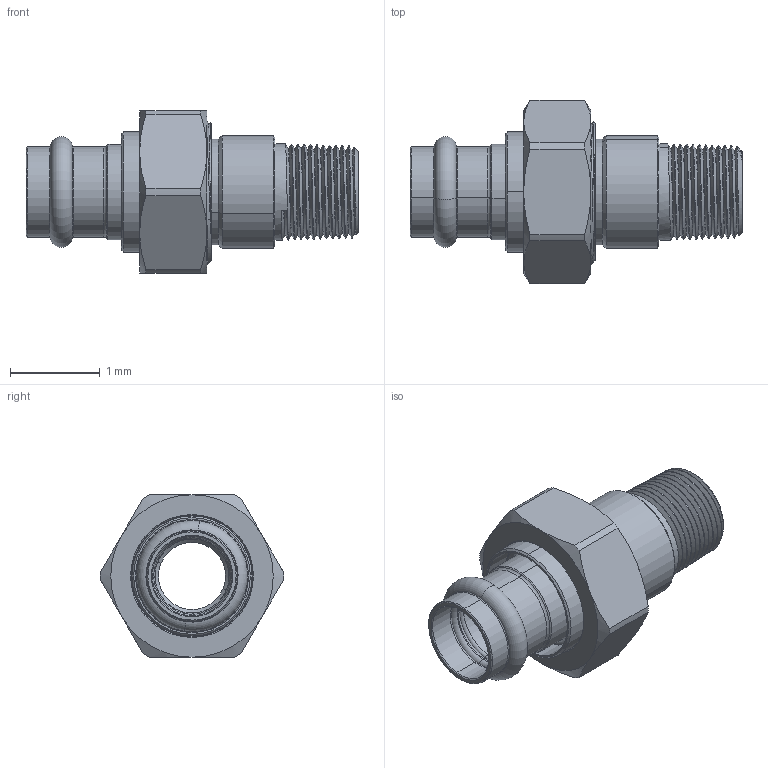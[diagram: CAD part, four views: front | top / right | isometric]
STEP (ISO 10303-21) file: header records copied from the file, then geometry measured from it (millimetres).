
FILE_DESCRIPTION(('Open CASCADE Model'),'2;1');
FILE_NAME('Open CASCADE Shape Model','2022-06-28T09:24:15',('Author'),( 'Open CASCADE'),'Open CASCADE STEP processor 7.3','Open CASCADE 7.3' ,'Unknown');
FILE_SCHEMA(('AUTOMOTIVE_DESIGN { 1 0 10303 214 1 1 1 1 }'));
Length unit declared in the file: millimetre
Products named in the file (7): Open CASCADE STEP translator 7.3 1; Open CASCADE STEP translator 7.3 1.1; Open CASCADE STEP translator 7.3 1.2; Open CASCADE STEP translator 7.3 1.3; Open CASCADE STEP translator 7.3 1.4; Open CASCADE STEP translator 7.3 1.5; Open CASCADE STEP translator 7.3 1.6
Assembly tree (6 placements, depth 2):
  Open CASCADE STEP translator 7.3 1
    Open CASCADE STEP translator 7.3 1.1
    Open CASCADE STEP translator 7.3 1.2
    Open CASCADE STEP translator 7.3 1.3
    Open CASCADE STEP translator 7.3 1.4
    Open CASCADE STEP translator 7.3 1.5
    Open CASCADE STEP translator 7.3 1.6
Bounding box: 3.7 x 2.05 x 1.81 mm (x, y, z)
Volume: 2.9 mm3; surface area: 53.7 mm2
Topology: 6 solids, 6 shells, 206 faces, 481 edges, 294 vertices
Faces by surface type: cone 82, cylinder 70, plane 27, torus 18, bspline 9
Entity records: 44462 total; most frequent: CARTESIAN_POINT 35221, DIRECTION 1565, ORIENTED_EDGE 962, PCURVE 962, DEFINITIONAL_REPRESENTATION 962, LINE 722, VECTOR 722, EDGE_CURVE 481
